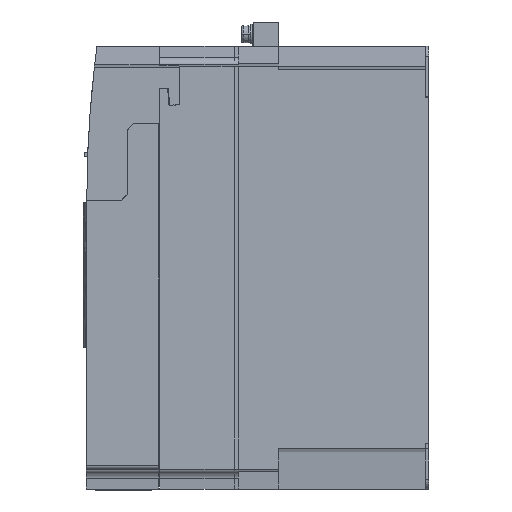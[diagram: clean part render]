
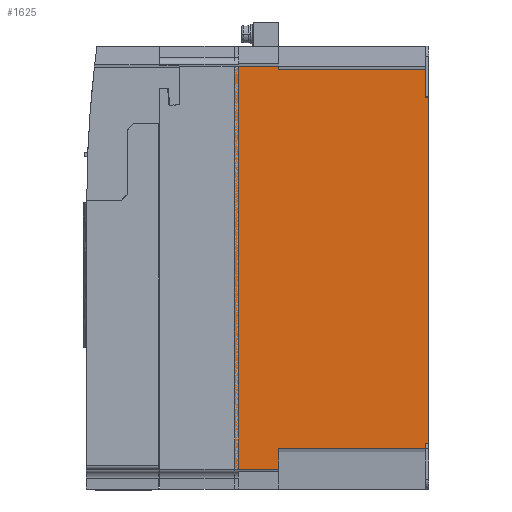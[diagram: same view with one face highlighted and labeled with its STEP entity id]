
A CAD part, left-side view. The second image highlights one B-rep face of the part: STEP entity #1625.
In plain terms, the highlighted planar face has unit normal (-1, 0, 0).
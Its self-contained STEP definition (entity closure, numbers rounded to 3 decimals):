
#1625=ADVANCED_FACE('',(#6849),#6850,.T.);
#6849=FACE_OUTER_BOUND('',#16070,.T.);
#6850=PLANE('',#16071);
#16070=EDGE_LOOP('',(#36184,#36185,#36186,#36187,#36188,#36189,#36190,#36191,#36192,#36193));
#16071=AXIS2_PLACEMENT_3D('',#36194,#36195,#36196);
#36184=ORIENTED_EDGE('',*,*,#61017,.F.);
#36185=ORIENTED_EDGE('',*,*,#60964,.T.);
#36186=ORIENTED_EDGE('',*,*,#61016,.T.);
#36187=ORIENTED_EDGE('',*,*,#61014,.T.);
#36188=ORIENTED_EDGE('',*,*,#61018,.F.);
#36189=ORIENTED_EDGE('',*,*,#61019,.F.);
#36190=ORIENTED_EDGE('',*,*,#61020,.T.);
#36191=ORIENTED_EDGE('',*,*,#60860,.F.);
#36192=ORIENTED_EDGE('',*,*,#61021,.F.);
#36193=ORIENTED_EDGE('',*,*,#60942,.T.);
#36194=CARTESIAN_POINT('',(-75.0,0.0,0.0));
#36195=DIRECTION('',(-1.0,0.0,0.0));
#36196=DIRECTION('',(0.0,0.0,1.0));
#60860=EDGE_CURVE('',#73750,#73752,#73753,.T.);
#60942=EDGE_CURVE('',#73901,#73899,#73902,.T.);
#60964=EDGE_CURVE('',#73936,#73933,#73937,.T.);
#61014=EDGE_CURVE('',#74026,#74024,#74027,.T.);
#61016=EDGE_CURVE('',#73933,#74026,#74029,.T.);
#61017=EDGE_CURVE('',#73936,#73899,#74030,.T.);
#61018=EDGE_CURVE('',#74031,#74024,#74032,.T.);
#61019=EDGE_CURVE('',#74033,#74031,#74034,.T.);
#61020=EDGE_CURVE('',#74033,#73752,#74035,.T.);
#61021=EDGE_CURVE('',#73901,#73750,#74036,.T.);
#73750=VERTEX_POINT('',#94826);
#73752=VERTEX_POINT('',#94829);
#73753=LINE('',#94830,#94831);
#73899=VERTEX_POINT('',#95052);
#73901=VERTEX_POINT('',#95055);
#73902=LINE('',#95056,#95057);
#73933=VERTEX_POINT('',#95107);
#73936=VERTEX_POINT('',#95111);
#73937=LINE('',#95112,#95113);
#74024=VERTEX_POINT('',#95248);
#74026=VERTEX_POINT('',#95251);
#74027=LINE('',#95252,#95253);
#74029=LINE('',#95256,#95257);
#74030=LINE('',#95258,#95259);
#74031=VERTEX_POINT('',#95260);
#74032=LINE('',#95261,#95262);
#74033=VERTEX_POINT('',#95263);
#74034=LINE('',#95264,#95265);
#74035=LINE('',#95266,#95267);
#74036=LINE('',#95268,#95269);
#94826=CARTESIAN_POINT('',(-75.0,0.0,194.3));
#94829=CARTESIAN_POINT('',(-75.0,0.0,20.0));
#94830=CARTESIAN_POINT('',(-75.0,0.0,194.3));
#94831=VECTOR('',#118835,174.3);
#95052=CARTESIAN_POINT('',(-75.0,1.5,208.5));
#95055=CARTESIAN_POINT('',(-75.0,1.5,194.3));
#95056=CARTESIAN_POINT('',(-75.0,1.5,194.3));
#95057=VECTOR('',#118927,14.2);
#95107=CARTESIAN_POINT('',(-75.0,74.5,210.0));
#95111=CARTESIAN_POINT('',(-75.0,74.5,208.5));
#95112=CARTESIAN_POINT('',(-75.0,74.5,208.5));
#95113=VECTOR('',#118951,1.5);
#95248=CARTESIAN_POINT('',(-75.0,96.5,10.0));
#95251=CARTESIAN_POINT('',(-75.0,96.5,210.0));
#95252=CARTESIAN_POINT('',(-75.0,96.5,210.0));
#95253=VECTOR('',#119001,200.0);
#95256=CARTESIAN_POINT('',(-75.0,74.5,210.0));
#95257=VECTOR('',#119003,22.0);
#95258=CARTESIAN_POINT('',(-75.0,74.5,208.5));
#95259=VECTOR('',#119004,73.0);
#95260=CARTESIAN_POINT('',(-75.0,74.5,10.0));
#95261=CARTESIAN_POINT('',(-75.0,74.5,10.0));
#95262=VECTOR('',#119005,22.0);
#95263=CARTESIAN_POINT('',(-75.0,74.5,20.0));
#95264=CARTESIAN_POINT('',(-75.0,74.5,20.0));
#95265=VECTOR('',#119006,10.0);
#95266=CARTESIAN_POINT('',(-75.0,74.5,20.0));
#95267=VECTOR('',#119007,74.5);
#95268=CARTESIAN_POINT('',(-75.0,1.5,194.3));
#95269=VECTOR('',#119008,1.5);
#118835=DIRECTION('',(0.0,0.0,-1.0));
#118927=DIRECTION('',(0.0,0.0,1.0));
#118951=DIRECTION('',(0.,0.,1.0));
#119001=DIRECTION('',(0.0,0.0,-1.0));
#119003=DIRECTION('',(0.0,1.0,0.));
#119004=DIRECTION('',(0.0,-1.0,0.));
#119005=DIRECTION('',(0.0,1.0,0.0));
#119006=DIRECTION('',(0.,0.0,-1.0));
#119007=DIRECTION('',(0.0,-1.0,0.0));
#119008=DIRECTION('',(0.0,-1.0,0.0));
